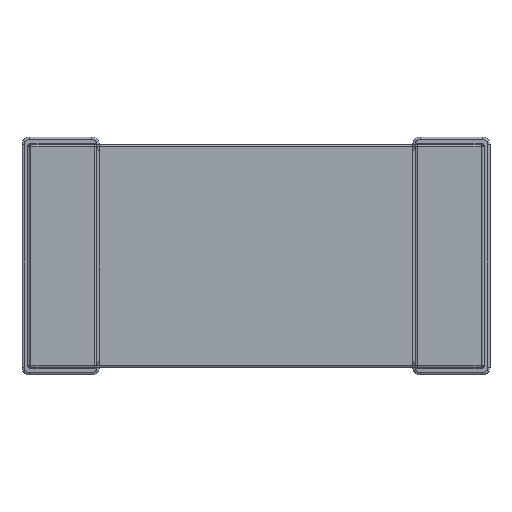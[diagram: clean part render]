
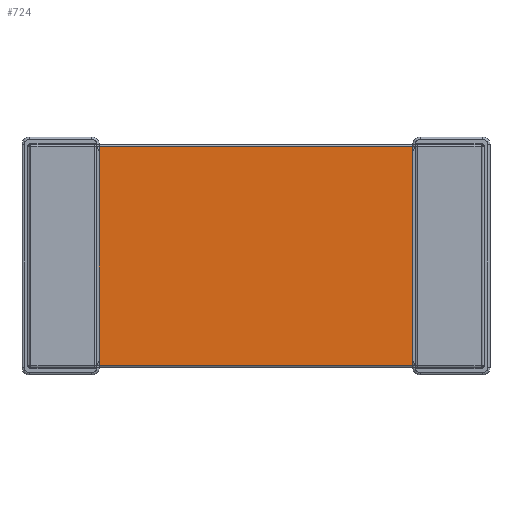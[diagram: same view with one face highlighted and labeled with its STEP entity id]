
A CAD part, top view. The second image highlights one B-rep face of the part: STEP entity #724.
In plain terms, the highlighted planar face has unit normal (0, 0, 1).
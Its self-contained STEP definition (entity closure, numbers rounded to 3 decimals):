
#724=ADVANCED_FACE('',(#2296),#2298,.T.);
#2296=FACE_BOUND('',#2297,.T.);
#2297=EDGE_LOOP('',(#3523,#3524,#3525,#3526));
#2298=PLANE('',#2299);
#2299=AXIS2_PLACEMENT_3D('',#2300,#2301,#2302);
#2300=CARTESIAN_POINT('',(-2.11,1.5,0.37));
#2301=DIRECTION('',(-0.,0.,1.));
#2302=DIRECTION('',(0.,-1.,0.));
#3523=ORIENTED_EDGE('',*,*,#4239,.T.);
#3524=ORIENTED_EDGE('',*,*,#4105,.F.);
#3525=ORIENTED_EDGE('',*,*,#4240,.F.);
#3526=ORIENTED_EDGE('',*,*,#4118,.T.);
#4105=EDGE_CURVE('',#4638,#4631,#4640,.T.);
#4118=EDGE_CURVE('',#4660,#4658,#4661,.T.);
#4239=EDGE_CURVE('',#4658,#4631,#4855,.T.);
#4240=EDGE_CURVE('',#4660,#4638,#4856,.T.);
#4631=VERTEX_POINT('',#5674);
#4638=VERTEX_POINT('',#5692);
#4640=LINE('',#5697,#5698);
#4658=VERTEX_POINT('',#5747);
#4660=VERTEX_POINT('',#5752);
#4661=LINE('',#5753,#5754);
#4855=LINE('',#6284,#6285);
#4856=LINE('',#6287,#6288);
#5674=CARTESIAN_POINT('',(2.105,-1.47,0.37));
#5692=CARTESIAN_POINT('',(2.105,1.47,0.37));
#5697=CARTESIAN_POINT('',(2.105,1.47,0.37));
#5698=VECTOR('',#5699,1.);
#5699=DIRECTION('',(0.,-1.,0.));
#5747=CARTESIAN_POINT('',(-2.11,-1.47,0.37));
#5752=CARTESIAN_POINT('',(-2.11,1.47,0.37));
#5753=CARTESIAN_POINT('',(-2.11,1.47,0.37));
#5754=VECTOR('',#5755,1.);
#5755=DIRECTION('',(0.,-1.,0.));
#6284=CARTESIAN_POINT('',(-2.11,-1.47,0.37));
#6285=VECTOR('',#6286,1.);
#6286=DIRECTION('',(1.,0.,0.));
#6287=CARTESIAN_POINT('',(-2.11,1.47,0.37));
#6288=VECTOR('',#6289,1.);
#6289=DIRECTION('',(1.,0.,0.));
